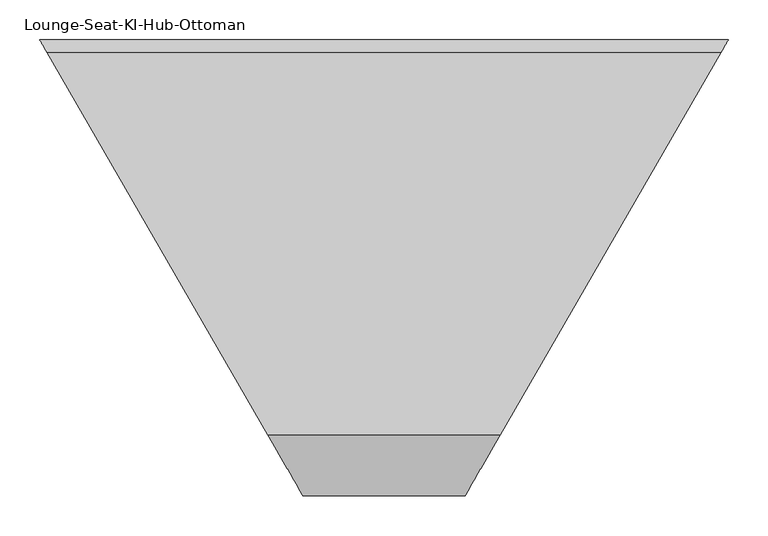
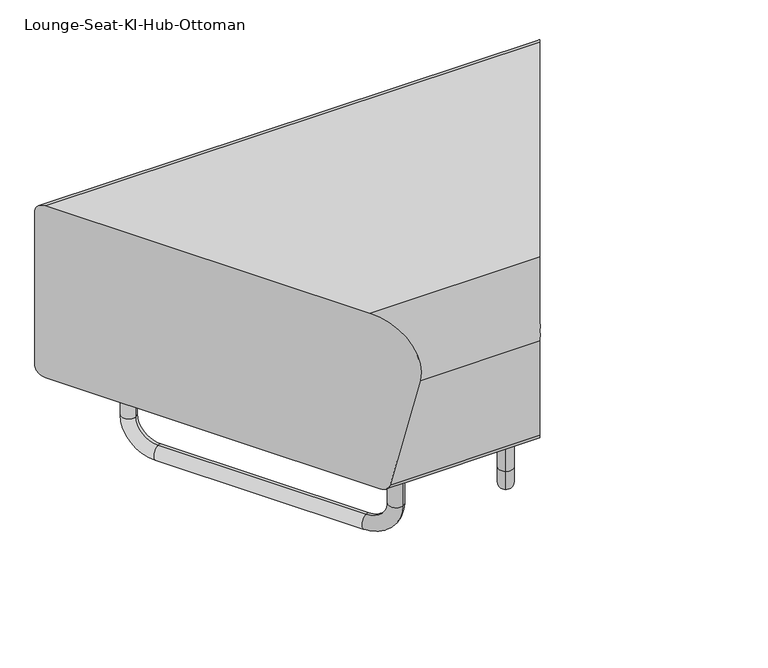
"""IFC4 building model written with IfcOpenShell, lengths in millimetres: furniture geometry."""

from ifc_helpers import new_model, si_unit, point, frame, origin, place, context, project, spatial, circle_curve, ellipse_curve, trimmed, source, transform, mapped, element, save
from ifc_brep_helpers import plane_surface, cylinder_surface, revolved_surface, advanced_brep


def lounge_seat_ki_hub_ottoman_10218188(model_context):
    return source(origin(), model_context, "Body", "AdvancedBrep", [
        advanced_brep(
        [(87.3912127, -208.9719299, 120.65), (100.0912127, -186.9748847, 120.65), (87.3912127, -208.9719299, 63.5), (100.0912127, -186.9748847, 63.5), (119.1412127, -153.9793168, 25.4), (119.1412127, -153.9793168, 0.0), (296.9412127, 153.9793168, 0.0), (296.9412127, 153.9793168, 25.4), (315.9912127, 186.9748847, 63.5), (328.6912127, 208.9719299, 63.5), (328.6912127, 208.9719299, 120.65), (315.9912127, 186.9748847, 120.65)],
        [
            (0, 1, circle_curve(frame((93.7412127, -197.9734073, 120.65), z_axis=(0.0, 0.0, 1.0), x_axis=(0.4999999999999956, 0.8660254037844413, 0.0)), 12.7)),
            (1, 0, circle_curve(frame((93.7412127, -197.9734073, 120.65), z_axis=(0.0, 0.0, 1.0), x_axis=(0.4999999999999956, 0.8660254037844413, 0.0)), 12.7)),
            (0, 2),
            (2, 3, circle_curve(frame((93.7412127, -197.9734073, 63.5), z_axis=(0.0, 0.0, 1.0), x_axis=(0.4999999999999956, 0.8660254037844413, 0.0)), 12.7)),
            (3, 1),
            (3, 2, circle_curve(frame((93.7412127, -197.9734073, 63.5), z_axis=(0.0, 0.0, 1.0), x_axis=(0.4999999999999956, 0.8660254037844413, 0.0)), 12.7)),
            (4, 3, circle_curve(frame((119.1412127, -153.9793168, 63.5), z_axis=(-0.8660254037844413, 0.4999999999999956, 0.0), x_axis=(-0.4999999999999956, -0.8660254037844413, 0.0)), 38.1)),
            (2, 5, circle_curve(frame((119.1412127, -153.9793168, 63.5), z_axis=(0.8660254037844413, -0.4999999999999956, 0.0), x_axis=(-0.4999999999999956, -0.8660254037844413, 0.0)), 63.5)),
            (5, 4, circle_curve(frame((119.1412127, -153.9793168, 12.7), z_axis=(-0.4999999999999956, -0.8660254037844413, 0.0), x_axis=(0.0, 0.0, 1.0)), 12.7)),
            (4, 5, circle_curve(frame((119.1412127, -153.9793168, 12.7), z_axis=(-0.4999999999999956, -0.8660254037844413, 0.0), x_axis=(0.0, 0.0, 1.0)), 12.7)),
            (5, 6),
            (6, 7, circle_curve(frame((296.9412127, 153.9793168, 12.7), z_axis=(-0.4999999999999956, -0.8660254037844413, 0.0), x_axis=(0.0, 0.0, 1.0)), 12.7)),
            (7, 4),
            (7, 6, circle_curve(frame((296.9412127, 153.9793168, 12.7), z_axis=(-0.4999999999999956, -0.8660254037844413, 0.0), x_axis=(0.0, 0.0, 1.0)), 12.7)),
            (8, 7, circle_curve(frame((296.9412127, 153.9793168, 63.5), z_axis=(-0.8660254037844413, 0.4999999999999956, 0.0), x_axis=(0.0, 0.0, -1.0)), 38.1)),
            (6, 9, circle_curve(frame((296.9412127, 153.9793168, 63.5), z_axis=(0.8660254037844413, -0.4999999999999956, 0.0), x_axis=(0.0, 0.0, -1.0)), 63.5)),
            (9, 8, circle_curve(frame((322.3412127, 197.9734073, 63.5), z_axis=(0.0, 0.0, -1.0), x_axis=(-0.4999999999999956, -0.8660254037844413, 0.0)), 12.7)),
            (8, 9, circle_curve(frame((322.3412127, 197.9734073, 63.5), z_axis=(0.0, 0.0, -1.0), x_axis=(-0.4999999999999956, -0.8660254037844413, 0.0)), 12.7)),
            (10, 11, circle_curve(frame((322.3412127, 197.9734073, 120.65), z_axis=(0.0, 0.0, 1.0), x_axis=(-0.4999999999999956, -0.8660254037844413, 0.0)), 12.7)),
            (11, 10, circle_curve(frame((322.3412127, 197.9734073, 120.65), z_axis=(0.0, 0.0, 1.0), x_axis=(-0.4999999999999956, -0.8660254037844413, 0.0)), 12.7)),
            (9, 10),
            (11, 8),
        ],
        [
            plane_surface(frame((93.7412127, -197.9734073, 120.65), z_axis=(0.0, 0.0, 1.0000000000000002), x_axis=(0.8660254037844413, -0.4999999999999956, 0.0))),
            cylinder_surface(frame((93.7412127, -197.9734073, 120.65), z_axis=(0.0, 0.0, 1.0), x_axis=(0.4999999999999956, 0.8660254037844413, 0.0)), 12.7),
            revolved_surface(trimmed(ellipse_curve(frame((93.7412127, -197.9734073, 63.5), z_axis=(0.0, 0.0, 1.0), x_axis=(0.4999999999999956, 0.8660254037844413, 0.0)), 12.7, 12.7), [point((87.3912127, -208.9719299, 63.5))], [point((100.0912127, -186.9748847, 63.5))], True, "CARTESIAN"), (119.1412127, -153.9793168, 63.5), (0.8660254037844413, -0.4999999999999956, 0.0)),
            revolved_surface(trimmed(ellipse_curve(frame((93.7412127, -197.9734073, 63.5), z_axis=(0.0, 0.0, 1.0), x_axis=(0.4999999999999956, 0.8660254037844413, 0.0)), 12.7, 12.7), [point((100.0912127, -186.9748847, 63.5))], [point((87.3912127, -208.9719299, 63.5))], True, "CARTESIAN"), (119.1412127, -153.9793168, 63.5), (0.8660254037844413, -0.4999999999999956, 0.0)),
            cylinder_surface(frame((119.1412127, -153.9793168, 12.7), z_axis=(-0.4999999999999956, -0.8660254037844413, 0.0), x_axis=(0.0, 0.0, 1.0)), 12.7),
            revolved_surface(trimmed(ellipse_curve(frame((296.9412127, 153.9793168, 12.7), z_axis=(-0.4999999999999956, -0.8660254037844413, 0.0), x_axis=(0.0, 0.0, 1.0)), 12.7, 12.7), [point((296.9412127, 153.9793168, 0.0))], [point((296.9412127, 153.9793168, 25.4))], True, "CARTESIAN"), (296.9412127, 153.9793168, 63.5), (0.8660254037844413, -0.4999999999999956, 0.0)),
            revolved_surface(trimmed(ellipse_curve(frame((296.9412127, 153.9793168, 12.7), z_axis=(-0.4999999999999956, -0.8660254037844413, 0.0), x_axis=(0.0, 0.0, 1.0)), 12.7, 12.7), [point((296.9412127, 153.9793168, 25.4))], [point((296.9412127, 153.9793168, 0.0))], True, "CARTESIAN"), (296.9412127, 153.9793168, 63.5), (0.8660254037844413, -0.4999999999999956, 0.0)),
            plane_surface(frame((322.3412127, 197.9734073, 120.65), z_axis=(0.0, 0.0, 1.0000000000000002), x_axis=(0.8660254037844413, -0.4999999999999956, 0.0))),
            cylinder_surface(frame((322.3412127, 197.9734073, 63.5), z_axis=(0.0, 0.0, -1.0), x_axis=(-0.4999999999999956, -0.8660254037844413, 0.0)), 12.7),
        ],
        [
            (0, [[1, 2]]),
            (1, [[-1, 3, 4, 5]]),
            (1, [[-2, -5, 6, -3]]),
            (2, [[7, -4, 8, 9]]),
            (3, [[-8, -6, -7, 10]]),
            (4, [[-9, 11, 12, 13]]),
            (4, [[-10, -13, 14, -11]]),
            (5, [[15, -12, 16, 17]]),
            (6, [[-16, -14, -15, 18]]),
            (7, [[19, 20]]),
            (8, [[-17, 21, -20, 22]]),
            (8, [[-18, -22, -19, -21]]),
        ],
    ),
        advanced_brep(
        [(-87.3912127, -208.9719299, 120.65), (-100.0912127, -186.9748847, 120.65), (-87.3912127, -208.9719299, 63.5), (-100.0912127, -186.9748847, 63.5), (-119.1412127, -153.9793168, 25.4), (-119.1412127, -153.9793168, 0.0), (-296.9412127, 153.9793168, 0.0), (-296.9412127, 153.9793168, 25.4), (-315.9912127, 186.9748847, 63.5), (-328.6912127, 208.9719299, 63.5), (-328.6912127, 208.9719299, 120.65), (-315.9912127, 186.9748847, 120.65)],
        [
            (0, 1, circle_curve(frame((-93.7412127, -197.9734073, 120.65), z_axis=(0.0, 0.0, 1.0), x_axis=(-0.4999999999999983, 0.8660254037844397, 0.0)), 12.7)),
            (1, 0, circle_curve(frame((-93.7412127, -197.9734073, 120.65), z_axis=(0.0, 0.0, 1.0), x_axis=(-0.4999999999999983, 0.8660254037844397, 0.0)), 12.7)),
            (0, 2),
            (2, 3, circle_curve(frame((-93.7412127, -197.9734073, 63.5), z_axis=(0.0, 0.0, 1.0), x_axis=(-0.4999999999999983, 0.8660254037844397, 0.0)), 12.7)),
            (3, 1),
            (3, 2, circle_curve(frame((-93.7412127, -197.9734073, 63.5), z_axis=(0.0, 0.0, 1.0), x_axis=(-0.4999999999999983, 0.8660254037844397, 0.0)), 12.7)),
            (4, 3, circle_curve(frame((-119.1412127, -153.9793168, 63.5), z_axis=(-0.8660254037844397, -0.4999999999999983, 0.0), x_axis=(0.4999999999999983, -0.8660254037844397, 0.0)), 38.1)),
            (2, 5, circle_curve(frame((-119.1412127, -153.9793168, 63.5), z_axis=(0.8660254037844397, 0.4999999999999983, 0.0), x_axis=(0.4999999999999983, -0.8660254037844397, 0.0)), 63.5)),
            (5, 4, circle_curve(frame((-119.1412127, -153.9793168, 12.7), z_axis=(0.4999999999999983, -0.8660254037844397, 0.0), x_axis=(0.0, 0.0, 1.0)), 12.7)),
            (4, 5, circle_curve(frame((-119.1412127, -153.9793168, 12.7), z_axis=(0.4999999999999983, -0.8660254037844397, 0.0), x_axis=(0.0, 0.0, 1.0)), 12.7)),
            (5, 6),
            (6, 7, circle_curve(frame((-296.9412127, 153.9793168, 12.7), z_axis=(0.4999999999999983, -0.8660254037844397, 0.0), x_axis=(0.0, 0.0, 1.0)), 12.7)),
            (7, 4),
            (7, 6, circle_curve(frame((-296.9412127, 153.9793168, 12.7), z_axis=(0.4999999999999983, -0.8660254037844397, 0.0), x_axis=(0.0, 0.0, 1.0)), 12.7)),
            (8, 7, circle_curve(frame((-296.9412127, 153.9793168, 63.5), z_axis=(-0.8660254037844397, -0.4999999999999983, 0.0), x_axis=(0.0, 0.0, -1.0)), 38.1)),
            (6, 9, circle_curve(frame((-296.9412127, 153.9793168, 63.5), z_axis=(0.8660254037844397, 0.4999999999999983, 0.0), x_axis=(0.0, 0.0, -1.0)), 63.5)),
            (9, 8, circle_curve(frame((-322.3412127, 197.9734073, 63.5), z_axis=(0.0, 0.0, -1.0), x_axis=(0.4999999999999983, -0.8660254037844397, 0.0)), 12.7)),
            (8, 9, circle_curve(frame((-322.3412127, 197.9734073, 63.5), z_axis=(0.0, 0.0, -1.0), x_axis=(0.4999999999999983, -0.8660254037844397, 0.0)), 12.7)),
            (10, 11, circle_curve(frame((-322.3412127, 197.9734073, 120.65), z_axis=(0.0, 0.0, 1.0), x_axis=(0.4999999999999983, -0.8660254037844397, 0.0)), 12.7)),
            (11, 10, circle_curve(frame((-322.3412127, 197.9734073, 120.65), z_axis=(0.0, 0.0, 1.0), x_axis=(0.4999999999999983, -0.8660254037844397, 0.0)), 12.7)),
            (9, 10),
            (11, 8),
        ],
        [
            plane_surface(frame((-93.7412127, -197.9734073, 120.65), z_axis=(0.0, 0.0, 1.0000000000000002), x_axis=(0.8660254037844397, 0.4999999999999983, 0.0))),
            cylinder_surface(frame((-93.7412127, -197.9734073, 120.65), z_axis=(0.0, 0.0, 1.0), x_axis=(-0.4999999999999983, 0.8660254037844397, 0.0)), 12.7),
            revolved_surface(trimmed(ellipse_curve(frame((-93.7412127, -197.9734073, 63.5), z_axis=(0.0, 0.0, 1.0), x_axis=(-0.4999999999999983, 0.8660254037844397, 0.0)), 12.7, 12.7), [point((-87.3912127, -208.9719299, 63.5))], [point((-100.0912127, -186.9748847, 63.5))], True, "CARTESIAN"), (-119.1412127, -153.9793168, 63.5), (0.8660254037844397, 0.4999999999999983, 0.0)),
            revolved_surface(trimmed(ellipse_curve(frame((-93.7412127, -197.9734073, 63.5), z_axis=(0.0, 0.0, 1.0), x_axis=(-0.4999999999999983, 0.8660254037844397, 0.0)), 12.7, 12.7), [point((-100.0912127, -186.9748847, 63.5))], [point((-87.3912127, -208.9719299, 63.5))], True, "CARTESIAN"), (-119.1412127, -153.9793168, 63.5), (0.8660254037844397, 0.4999999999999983, 0.0)),
            cylinder_surface(frame((-119.1412127, -153.9793168, 12.7), z_axis=(0.4999999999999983, -0.8660254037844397, 0.0), x_axis=(0.0, 0.0, 1.0)), 12.7),
            revolved_surface(trimmed(ellipse_curve(frame((-296.9412127, 153.9793168, 12.7), z_axis=(0.4999999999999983, -0.8660254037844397, 0.0), x_axis=(0.0, 0.0, 1.0)), 12.7, 12.7), [point((-296.9412127, 153.9793168, 0.0))], [point((-296.9412127, 153.9793168, 25.4))], True, "CARTESIAN"), (-296.9412127, 153.9793168, 63.5), (0.8660254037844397, 0.4999999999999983, 0.0)),
            revolved_surface(trimmed(ellipse_curve(frame((-296.9412127, 153.9793168, 12.7), z_axis=(0.4999999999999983, -0.8660254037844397, 0.0), x_axis=(0.0, 0.0, 1.0)), 12.7, 12.7), [point((-296.9412127, 153.9793168, 25.4))], [point((-296.9412127, 153.9793168, 0.0))], True, "CARTESIAN"), (-296.9412127, 153.9793168, 63.5), (0.8660254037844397, 0.4999999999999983, 0.0)),
            plane_surface(frame((-322.3412127, 197.9734073, 120.65), z_axis=(0.0, 0.0, 1.0000000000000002), x_axis=(0.8660254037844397, 0.4999999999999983, 0.0))),
            cylinder_surface(frame((-322.3412127, 197.9734073, 63.5), z_axis=(0.0, 0.0, -1.0), x_axis=(0.4999999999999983, -0.8660254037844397, 0.0)), 12.7),
        ],
        [
            (0, [[1, 2]]),
            (1, [[-1, 3, 4, 5]]),
            (1, [[-2, -5, 6, -3]]),
            (2, [[7, -4, 8, 9]]),
            (3, [[-8, -6, -7, 10]]),
            (4, [[-9, 11, 12, 13]]),
            (4, [[-10, -13, 14, -11]]),
            (5, [[15, -12, 16, 17]]),
            (6, [[-16, -14, -15, 18]]),
            (7, [[19, 20]]),
            (8, [[-17, 21, -20, 22]]),
            (8, [[-18, -22, -19, -21]]),
        ],
    ),
        advanced_brep(
        [(422.6345645, 270.0865883, 431.8), (-422.6345645, 270.0865883, 431.8), (-145.5940905, -209.7615883, 431.8), (145.5940905, -209.7615883, 431.8), (-422.6345645, 270.0865883, 120.65), (422.6345645, 270.0865883, 120.65), (136.8721364, -224.868456, 120.65), (-136.8721364, -224.868456, 120.65), (-431.8, 285.9615883, 136.525), (431.8, 285.9615883, 136.525), (-431.8, 285.9615883, 355.6), (-431.8, 285.9615883, 415.925), (431.8, 285.9615883, 415.925), (-127.9069876, -240.3965491, 133.2244019), (-102.5613764, -284.2964355, 339.7571292), (-101.6, -285.9615883, 355.6), (101.6, -285.9615883, 355.6), (102.5613764, -284.2964355, 339.7571292), (127.9069876, -240.3965491, 133.2244019)],
        [
            (0, 1),
            (1, 2),
            (2, 3),
            (3, 0),
            (4, 5),
            (5, 6),
            (6, 7),
            (7, 4),
            (8, 9),
            (9, 5, ellipse_curve(frame((422.6345645, 270.0865883, 136.525), z_axis=(-0.8660254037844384, 0.5000000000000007, 0.0), x_axis=(0.5000000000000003, 0.8660254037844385, 0.0)), 18.330871, 15.875)),
            (4, 8, ellipse_curve(frame((-422.6345645, 270.0865883, 136.525), z_axis=(0.8660254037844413, 0.4999999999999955, 0.0), x_axis=(0.49999999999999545, -0.8660254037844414, 0.0)), 18.330871, 15.875)),
            (8, 10),
            (10, 11),
            (11, 12),
            (12, 9),
            (11, 1, ellipse_curve(frame((-422.6345645, 270.0865883, 415.925), z_axis=(0.8660254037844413, 0.4999999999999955, 0.0), x_axis=(0.49999999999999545, -0.8660254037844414, 0.0)), 18.330871, 15.875)),
            (0, 12, ellipse_curve(frame((422.6345645, 270.0865883, 415.925), z_axis=(-0.8660254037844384, 0.5000000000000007, 0.0), x_axis=(0.5000000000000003, 0.8660254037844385, 0.0)), 18.330871, 15.875)),
            (7, 13, ellipse_curve(frame((-136.8721364, -224.868456, 136.525), z_axis=(-0.8660254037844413, -0.4999999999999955, 0.0), x_axis=(-0.49999999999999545, 0.8660254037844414, 0.0)), 18.330871, 15.875)),
            (13, 14),
            (14, 15, ellipse_curve(frame((-145.5940905, -209.7615883, 355.6), z_axis=(-0.8660254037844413, -0.4999999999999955, 0.0), x_axis=(-0.49999999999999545, 0.8660254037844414, 0.0)), 87.988181, 76.2)),
            (15, 2, ellipse_curve(frame((-145.5940905, -209.7615883, 355.6), z_axis=(-0.8660254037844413, -0.4999999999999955, 0.0), x_axis=(-0.49999999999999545, 0.8660254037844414, 0.0)), 87.988181, 76.2)),
            (3, 16, ellipse_curve(frame((145.5940905, -209.7615883, 355.6), z_axis=(0.8660254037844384, -0.5000000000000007, 0.0), x_axis=(-0.5000000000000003, -0.8660254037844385, 0.0)), 87.988181, 76.2)),
            (16, 17, ellipse_curve(frame((145.5940905, -209.7615883, 355.6), z_axis=(0.8660254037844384, -0.5000000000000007, 0.0), x_axis=(-0.5000000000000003, -0.8660254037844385, 0.0)), 87.988181, 76.2)),
            (17, 18),
            (18, 6, ellipse_curve(frame((136.8721364, -224.868456, 136.525), z_axis=(0.8660254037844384, -0.5000000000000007, 0.0), x_axis=(-0.5000000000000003, -0.8660254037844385, 0.0)), 18.330871, 15.875)),
            (14, 17),
            (18, 13),
        ],
        [
            plane_surface(frame((431.8, 270.0865883, 431.8), z_axis=(0.0, 0.0, 1.0), x_axis=(-1.0, 0.0, 0.0))),
            plane_surface(frame((431.8, -270.0865883, 120.65), z_axis=(0.0, 0.0, -1.0), x_axis=(-1.0, 0.0, 0.0))),
            cylinder_surface(frame((-431.8, 270.0865883, 136.525), z_axis=(1.0, 0.0, 0.0), x_axis=(0.0, 1.0, 0.0)), 15.875),
            plane_surface(frame((431.8, 285.9615883, 136.525), z_axis=(0.0, 1.0, 0.0), x_axis=(-1.0, 0.0, 0.0))),
            cylinder_surface(frame((-431.8, 270.0865883, 415.925), z_axis=(1.0, 0.0, 0.0), x_axis=(0.0, 1.0, 0.0)), 15.875),
            plane_surface(frame((-101.6, -285.9615883, 457.2), z_axis=(-0.8660254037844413, -0.4999999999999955, 0.0), x_axis=(0.0, 0.0, -1.0))),
            plane_surface(frame((431.8, 285.9615883, 457.2), z_axis=(0.8660254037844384, -0.5000000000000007, 0.0), x_axis=(0.0, 0.0, -1.0))),
            cylinder_surface(frame((-457.2, -209.7615883, 355.6), z_axis=(-1.0, 0.0, 0.0), x_axis=(0.0, 1.0, 0.0)), 76.2),
            cylinder_surface(frame((-457.2, -224.868456, 136.525), z_axis=(-1.0, 0.0, 0.0), x_axis=(0.0, 1.0, 0.0)), 15.875),
            plane_surface(frame((457.2, -240.3965491, 133.2244019), z_axis=(0.0, -0.9781476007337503, -0.20791169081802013), x_axis=(-1.0, 0.0, 0.0))),
        ],
        [
            (0, [[1, 2, 3, 4]]),
            (1, [[5, 6, 7, 8]]),
            (2, [[9, 10, -5, 11]]),
            (3, [[-9, 12, 13, 14, 15]]),
            (4, [[-14, 16, -1, 17]]),
            (5, [[-11, -8, 18, 19, 20, 21, -2, -16, -13, -12]]),
            (6, [[-10, -15, -17, -4, 22, 23, 24, 25, -6]]),
            (7, [[26, -23, -22, -3, -21, -20]]),
            (8, [[27, -18, -7, -25]]),
            (9, [[-26, -19, -27, -24]]),
        ],
    ),
    ])


if __name__ == "__main__":
    model = new_model("IFC4")
    model_context = context("Model", 3, world=origin())
    ifc_project = project(units=[si_unit("LENGTHUNIT", "METRE", prefix="MILLI")], contexts=[model_context])
    site = spatial("IfcSite", under=ifc_project)
    building = spatial("IfcBuilding", under=site)
    placement = place(None, origin())
    lounge_seat_ki_hub_ottoman_shape = lounge_seat_ki_hub_ottoman_10218188(model_context)
    element("IfcFurniture", 1, ObjectType="Lounge-Seat-KI-Hub-Ottoman : 60\x9d\x9d° Wedge - Inside", at=placement, inside=building, context=model_context, shape_type="MappedRepresentation", body=[
        mapped(lounge_seat_ki_hub_ottoman_shape, transform((0.0, 0.0, 0.0), x_axis=(1.0, 0.0, 0.0), y_axis=(0.0, 1.0, 0.0), z_axis=(0.0, 0.0, 1.0))),
    ])
    save(model, "model.ifc")
